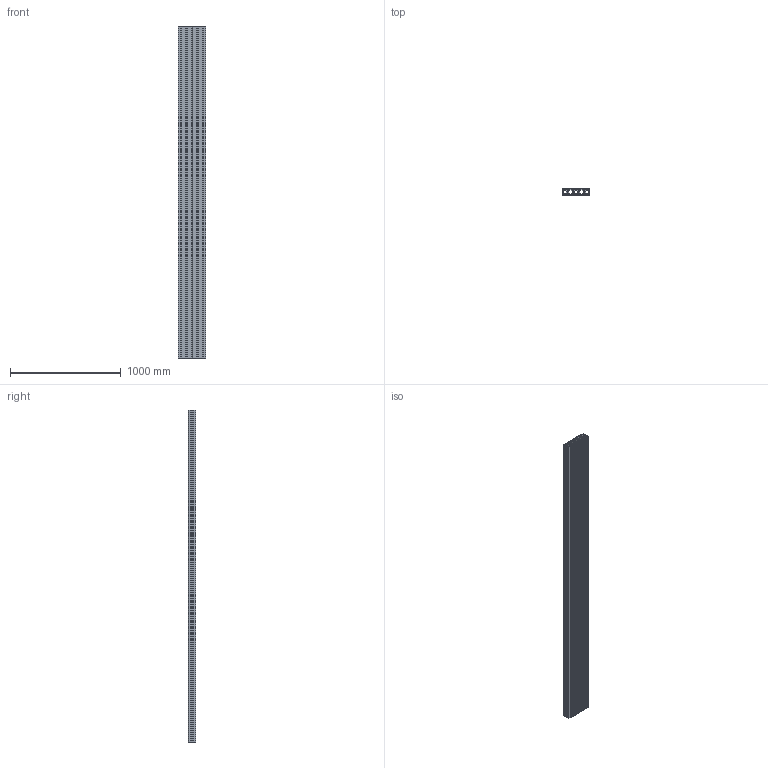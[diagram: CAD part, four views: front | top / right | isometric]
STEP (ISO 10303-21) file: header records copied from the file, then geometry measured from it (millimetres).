
FILE_DESCRIPTION (( 'STEP AP203' ), '1' );
FILE_NAME ('Rechteckprofil RE 65x250 - ArtNr 201032 3000.STEP', '2013-02-07T09:09:22', ( 'test' ), ( 'Microsoft' ), 'SwSTEP 2.0', 'SolidWorks 2012', '' );
FILE_SCHEMA (( 'CONFIG_CONTROL_DESIGN' ));
Length unit declared in the file: millimetre
Products named in the file (1): Rechteckprofil RE 65x250 - ArtNr 201032 3000
Bounding box: 250 x 65 x 3000 mm (x, y, z)
Volume: 13800216.1 mm3; surface area: 8636451.3 mm2
Topology: 1 solids, 1 shells, 528 faces, 1578 edges, 1052 vertices
Faces by surface type: plane 320, cylinder 208
Entity records: 17943 total; most frequent: CARTESIAN_POINT 3159, ORIENTED_EDGE 3156, DIRECTION 3052, EDGE_CURVE 1578, VECTOR 1162, LINE 1162, VERTEX_POINT 1052, AXIS2_PLACEMENT_3D 945
